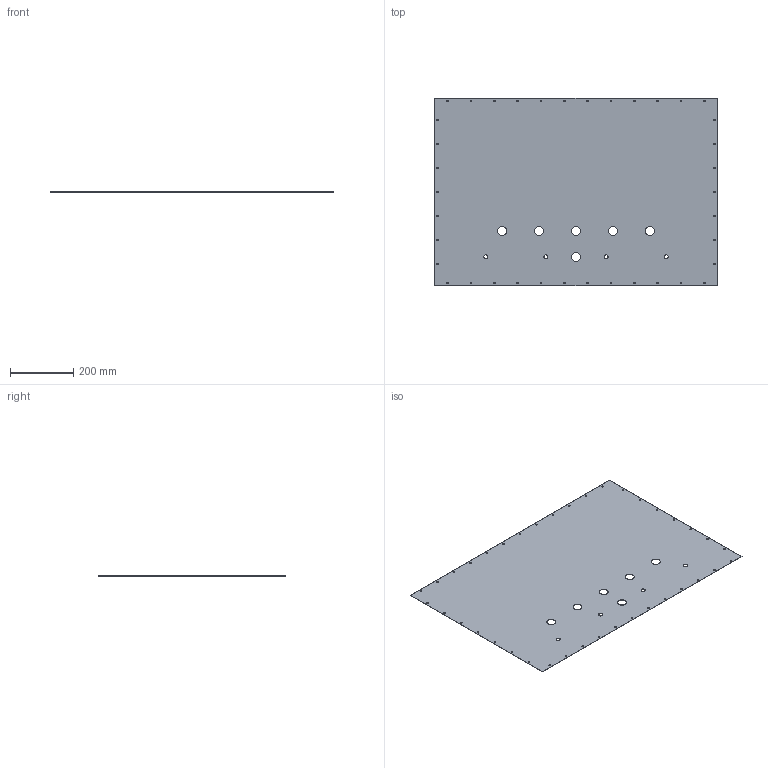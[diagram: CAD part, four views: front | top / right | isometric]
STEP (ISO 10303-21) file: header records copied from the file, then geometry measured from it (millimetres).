
FILE_DESCRIPTION (( 'STEP AP203' ), '1' );
FILE_NAME ('BACK.STEP', '2023-10-25T16:09:38', ( '' ), ( '' ), 'SwSTEP 2.0', 'SolidWorks 2021', '' );
FILE_SCHEMA (( 'CONFIG_CONTROL_DESIGN' ));
Length unit declared in the file: millimetre
Products named in the file (1): BACK
Bounding box: 892 x 592 x 0.79 mm (x, y, z)
Volume: 415098.7 mm3; surface area: 1049303.7 mm2
Topology: 1 solids, 1 shells, 102 faces, 300 edges, 200 vertices
Faces by surface type: cylinder 96, plane 6
Entity records: 3785 total; most frequent: DIRECTION 698, CARTESIAN_POINT 603, ORIENTED_EDGE 600, EDGE_CURVE 300, AXIS2_PLACEMENT_3D 295, VERTEX_POINT 200, EDGE_LOOP 198, CIRCLE 192
